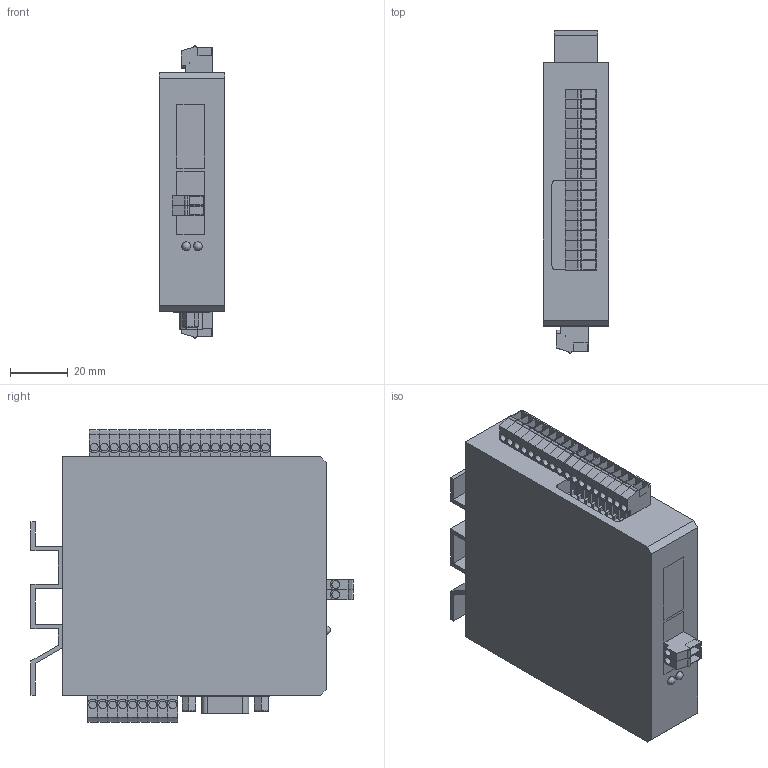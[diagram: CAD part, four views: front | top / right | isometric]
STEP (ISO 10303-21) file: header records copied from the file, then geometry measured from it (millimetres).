
FILE_DESCRIPTION (( 'STEP AP214' ), '1' );
FILE_NAME ('Z1690_Siganlwandler_2~0.STEP', '2017-11-16T10:16:50', ( '' ), ( '' ), 'SwSTEP 2.0', 'SolidWorks 2017', '' );
FILE_SCHEMA (( 'AUTOMOTIVE_DESIGN' ));
Length unit declared in the file: millimetre
Products named in the file (1): Z1690_Siganlwandler_2~0
Bounding box: 22.5 x 111.3 x 101.1 mm (x, y, z)
Volume: 176395.2 mm3; surface area: 45667.9 mm2
Topology: 33 solids, 33 shells, 1093 faces, 2737 edges, 1813 vertices
Faces by surface type: plane 885, cylinder 163, cone 43, bspline 2
Entity records: 44621 total; most frequent: CARTESIAN_POINT 5738, ORIENTED_EDGE 5458, DIRECTION 5284, EDGE_CURVE 2729, VECTOR 2310, LINE 2310, VERTEX_POINT 1813, AXIS2_PLACEMENT_3D 1487
